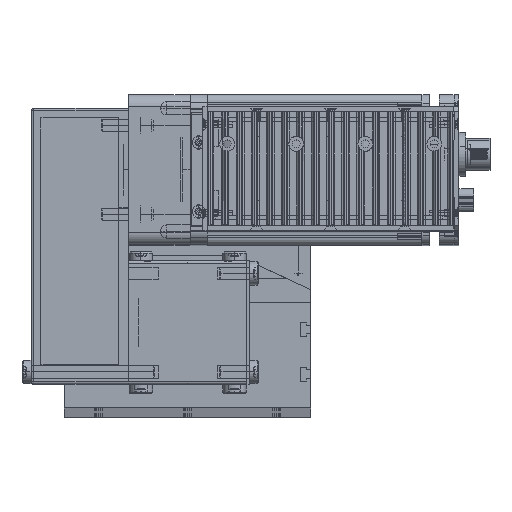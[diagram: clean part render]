
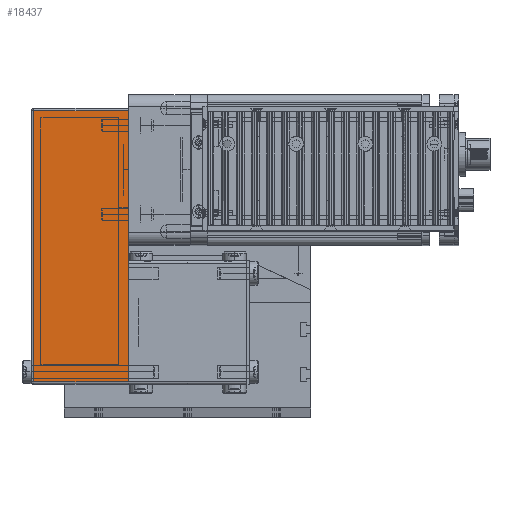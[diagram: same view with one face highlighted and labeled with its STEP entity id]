
A CAD part, top view. The second image highlights one B-rep face of the part: STEP entity #18437.
In plain terms, the highlighted planar face has unit normal (0, 0, 1) as drawn and (0, -1, 0) by its records, which use the part's own axes.
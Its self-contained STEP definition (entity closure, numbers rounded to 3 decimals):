
#16997 = DIRECTION ( 'NONE',  ( 0., 0., 1. ) ) ;
#16999 = VECTOR ( 'NONE', #16997, 1000. ) ;
#17001 = CARTESIAN_POINT ( 'NONE',  ( -49., -25., 39.5 ) ) ;
#17002 = LINE ( 'NONE', #17001, #16999 ) ;
#17022 = CARTESIAN_POINT ( 'NONE',  ( -49., -25., 38.5 ) ) ;
#17044 = CARTESIAN_POINT ( 'NONE',  ( -49., -25., 0. ) ) ;
#17138 = LINE ( 'NONE', #17244, #17243 ) ;
#17213 = CARTESIAN_POINT ( 'NONE',  ( 61., -25., 38.5 ) ) ;
#17223 = CARTESIAN_POINT ( 'NONE',  ( 61., -25., 0. ) ) ;
#17241 = DIRECTION ( 'NONE',  ( 0., 0., -1. ) ) ;
#17243 = VECTOR ( 'NONE', #17241, 1000. ) ;
#17244 = CARTESIAN_POINT ( 'NONE',  ( 61., -25., 39.5 ) ) ;
#17463 = FACE_OUTER_BOUND ( 'NONE', #18442, .T. ) ;
#17543 = DIRECTION ( 'NONE',  ( 1., 0., 0. ) ) ;
#17544 = VECTOR ( 'NONE', #17543, 1000. ) ;
#17546 = CARTESIAN_POINT ( 'NONE',  ( -50., -25., 38.5 ) ) ;
#17562 = DIRECTION ( 'NONE',  ( 0., 0., 1. ) ) ;
#17564 = DIRECTION ( 'NONE',  ( 0., 1., 0. ) ) ;
#17566 = CARTESIAN_POINT ( 'NONE',  ( -50., -25., 39.5 ) ) ;
#17567 = AXIS2_PLACEMENT_3D ( 'NONE', #17566, #17564, #17562 ) ;
#17571 = DIRECTION ( 'NONE',  ( 1., 0., 0. ) ) ;
#17572 = VECTOR ( 'NONE', #17571, 1000. ) ;
#17574 = CARTESIAN_POINT ( 'NONE',  ( -50., -25., 0. ) ) ;
#17576 = LINE ( 'NONE', #17574, #17572 ) ;
#17577 = LINE ( 'NONE', #17546, #17544 ) ;
#17583 = PLANE ( 'NONE',  #17567 ) ;
#18217 = VERTEX_POINT ( 'NONE', #17044 ) ;
#18230 = EDGE_CURVE ( 'NONE', #18217, #18236, #17002, .T. ) ;
#18236 = VERTEX_POINT ( 'NONE', #17022 ) ;
#18318 = EDGE_CURVE ( 'NONE', #18332, #18336, #17138, .T. ) ;
#18332 = VERTEX_POINT ( 'NONE', #17213 ) ;
#18336 = VERTEX_POINT ( 'NONE', #17223 ) ;
#18437 = ADVANCED_FACE ( 'NONE', ( #17463 ), #17583, .F. ) ;
#18439 = EDGE_CURVE ( 'NONE', #18217, #18336, #17576, .T. ) ;
#18442 = EDGE_LOOP ( 'NONE', ( #18447, #18453, #18459, #18458 ) ) ;
#18443 = EDGE_CURVE ( 'NONE', #18236, #18332, #17577, .T. ) ;
#18447 = ORIENTED_EDGE ( 'NONE', *, *, #18230, .F. ) ;
#18453 = ORIENTED_EDGE ( 'NONE', *, *, #18439, .T. ) ;
#18458 = ORIENTED_EDGE ( 'NONE', *, *, #18443, .F. ) ;
#18459 = ORIENTED_EDGE ( 'NONE', *, *, #18318, .F. ) ;
